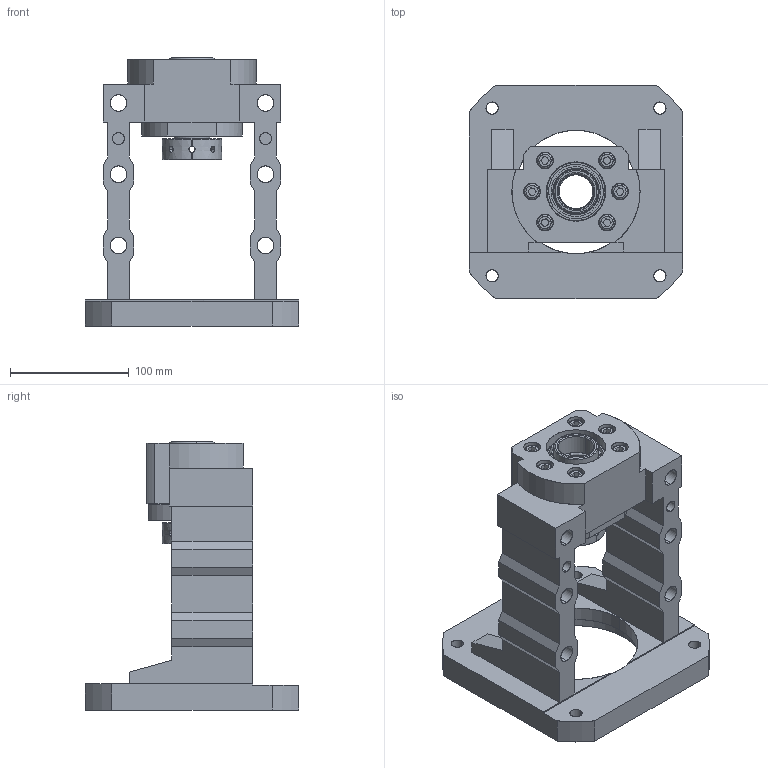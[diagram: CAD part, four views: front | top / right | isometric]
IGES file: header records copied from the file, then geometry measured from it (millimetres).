
Start section: SolidWorks IGES file using analytic representation for surfaces
Bounding box: 180 x 180 x 226 mm (x, y, z)
Surface area: 219082.5 mm2 (no closed solid volume)
Topology: 0 solids, 0 shells, 350 faces, 6084 edges, 6076 vertices
Faces by surface type: revolution 192, bspline 158
